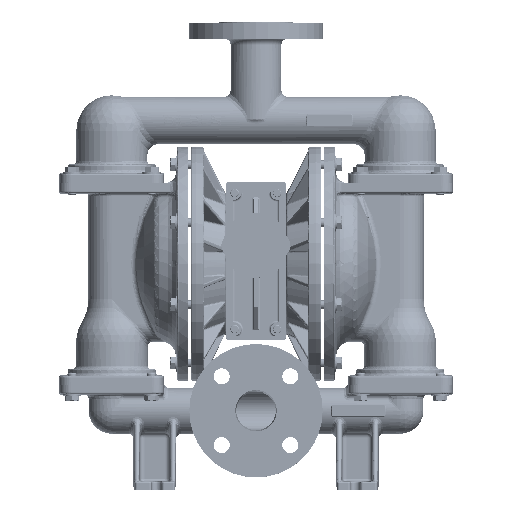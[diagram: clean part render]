
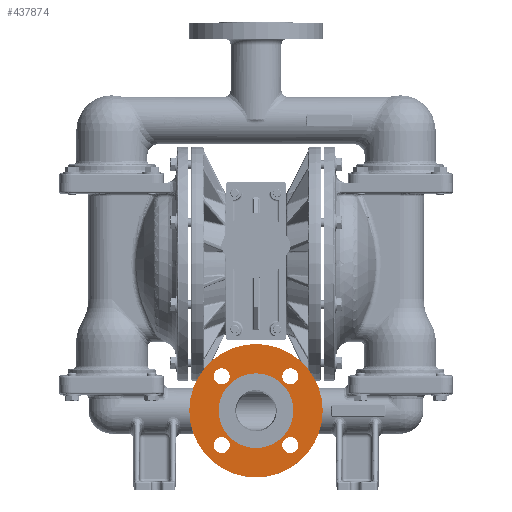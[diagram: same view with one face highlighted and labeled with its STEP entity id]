
A CAD part, top view. The second image highlights one B-rep face of the part: STEP entity #437874.
In plain terms, the highlighted planar face has unit normal (0, 0, 1).
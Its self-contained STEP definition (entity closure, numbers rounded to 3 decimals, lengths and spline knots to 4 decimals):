
#107696=CARTESIAN_POINT('',(0.,-6.51,3.19));
#107697=DIRECTION('',(0.,0.,-1.));
#107698=DIRECTION('',(0.,1.,0.));
#107699=AXIS2_PLACEMENT_3D('',#107696,#107697,#107698);
#107701=CARTESIAN_POINT('',(0.,-6.51,3.19));
#107702=DIRECTION('',(0.,0.,1.));
#107703=DIRECTION('',(0.,1.,0.));
#107704=AXIS2_PLACEMENT_3D('',#107701,#107702,#107703);
#107706=CARTESIAN_POINT('',(1.5203,-4.9897,3.19));
#107707=DIRECTION('',(0.,0.,-1.));
#107708=DIRECTION('',(-1.,0.,0.));
#107709=AXIS2_PLACEMENT_3D('',#107706,#107707,#107708);
#107711=CARTESIAN_POINT('',(1.5203,-4.9897,3.19));
#107712=DIRECTION('',(0.,0.,-1.));
#107713=DIRECTION('',(1.,0.,0.));
#107714=AXIS2_PLACEMENT_3D('',#107711,#107712,#107713);
#107716=CARTESIAN_POINT('',(1.5203,-8.0303,3.19));
#107717=DIRECTION('',(0.,0.,-1.));
#107718=DIRECTION('',(-1.,0.,0.));
#107719=AXIS2_PLACEMENT_3D('',#107716,#107717,#107718);
#107721=CARTESIAN_POINT('',(1.5203,-8.0303,3.19));
#107722=DIRECTION('',(0.,0.,-1.));
#107723=DIRECTION('',(1.,0.,0.));
#107724=AXIS2_PLACEMENT_3D('',#107721,#107722,#107723);
#107726=CARTESIAN_POINT('',(-1.5203,-8.0303,3.19));
#107727=DIRECTION('',(0.,0.,-1.));
#107728=DIRECTION('',(-1.,0.,0.));
#107729=AXIS2_PLACEMENT_3D('',#107726,#107727,#107728);
#107731=CARTESIAN_POINT('',(-1.5203,-8.0303,3.19));
#107732=DIRECTION('',(0.,0.,-1.));
#107733=DIRECTION('',(1.,0.,0.));
#107734=AXIS2_PLACEMENT_3D('',#107731,#107732,#107733);
#107736=CARTESIAN_POINT('',(-1.5203,-4.9897,3.19));
#107737=DIRECTION('',(0.,0.,-1.));
#107738=DIRECTION('',(-1.,0.,0.));
#107739=AXIS2_PLACEMENT_3D('',#107736,#107737,#107738);
#107741=CARTESIAN_POINT('',(-1.5203,-4.9897,3.19));
#107742=DIRECTION('',(0.,0.,-1.));
#107743=DIRECTION('',(1.,0.,0.));
#107744=AXIS2_PLACEMENT_3D('',#107741,#107742,#107743);
#107746=CARTESIAN_POINT('',(0.,-6.51,3.19));
#107747=DIRECTION('',(0.,0.,-1.));
#107748=DIRECTION('',(0.,1.,0.));
#107749=AXIS2_PLACEMENT_3D('',#107746,#107747,#107748);
#107756=CARTESIAN_POINT('',(0.,-6.51,3.19));
#107757=DIRECTION('',(0.,0.,-1.));
#107758=DIRECTION('',(0.,-1.,0.));
#107759=AXIS2_PLACEMENT_3D('',#107756,#107757,#107758);
#350167=CARTESIAN_POINT('',(0.,-4.855,3.19));
#350169=VERTEX_POINT('',#350167);
#350171=CARTESIAN_POINT('',(0.,-8.165,3.19));
#350173=VERTEX_POINT('',#350171);
#350174=CARTESIAN_POINT('',(0.,-3.555,3.19));
#350175=CARTESIAN_POINT('',(0.,-9.465,3.19));
#350176=VERTEX_POINT('',#350174);
#350177=VERTEX_POINT('',#350175);
#350186=CARTESIAN_POINT('',(1.1653,-4.9897,3.19));
#350187=CARTESIAN_POINT('',(1.8753,-4.9897,3.19));
#350188=VERTEX_POINT('',#350186);
#350189=VERTEX_POINT('',#350187);
#350194=CARTESIAN_POINT('',(1.1653,-8.0303,3.19));
#350195=CARTESIAN_POINT('',(1.8753,-8.0303,3.19));
#350196=VERTEX_POINT('',#350194);
#350197=VERTEX_POINT('',#350195);
#350202=CARTESIAN_POINT('',(-1.8753,-8.0303,3.19));
#350203=CARTESIAN_POINT('',(-1.1653,-8.0303,3.19));
#350204=VERTEX_POINT('',#350202);
#350205=VERTEX_POINT('',#350203);
#350210=CARTESIAN_POINT('',(-1.8753,-4.9897,3.19));
#350211=CARTESIAN_POINT('',(-1.1653,-4.9897,3.19));
#350212=VERTEX_POINT('',#350210);
#350213=VERTEX_POINT('',#350211);
#437835=CARTESIAN_POINT('',(0.,-6.51,3.19));
#437836=DIRECTION('',(0.,0.,-1.));
#437837=DIRECTION('',(0.,-1.,0.));
#437838=AXIS2_PLACEMENT_3D('',#437835,#437836,#437837);
#437839=PLANE('',#437838);
#437841=ORIENTED_EDGE('',*,*,#437840,.T.);
#437843=ORIENTED_EDGE('',*,*,#437842,.T.);
#437844=EDGE_LOOP('',(#437841,#437843));
#437845=FACE_OUTER_BOUND('',#437844,.F.);
#437846=ORIENTED_EDGE('',*,*,#437828,.F.);
#437847=ORIENTED_EDGE('',*,*,#437817,.T.);
#437848=EDGE_LOOP('',(#437846,#437847));
#437849=FACE_BOUND('',#437848,.F.);
#437851=ORIENTED_EDGE('',*,*,#437850,.F.);
#437853=ORIENTED_EDGE('',*,*,#437852,.F.);
#437854=EDGE_LOOP('',(#437851,#437853));
#437855=FACE_BOUND('',#437854,.F.);
#437857=ORIENTED_EDGE('',*,*,#437856,.F.);
#437859=ORIENTED_EDGE('',*,*,#437858,.F.);
#437860=EDGE_LOOP('',(#437857,#437859));
#437861=FACE_BOUND('',#437860,.F.);
#437863=ORIENTED_EDGE('',*,*,#437862,.F.);
#437865=ORIENTED_EDGE('',*,*,#437864,.F.);
#437866=EDGE_LOOP('',(#437863,#437865));
#437867=FACE_BOUND('',#437866,.F.);
#437869=ORIENTED_EDGE('',*,*,#437868,.F.);
#437871=ORIENTED_EDGE('',*,*,#437870,.F.);
#437872=EDGE_LOOP('',(#437869,#437871));
#437873=FACE_BOUND('',#437872,.F.);
#437874=ADVANCED_FACE('',(#437845,#437849,#437855,#437861,#437867,#437873),
#437839,.F.);
#107700=CIRCLE('',#107699,1.655);
#107705=CIRCLE('',#107704,1.655);
#107710=CIRCLE('',#107709,0.355);
#107715=CIRCLE('',#107714,0.355);
#107720=CIRCLE('',#107719,0.355);
#107725=CIRCLE('',#107724,0.355);
#107730=CIRCLE('',#107729,0.355);
#107735=CIRCLE('',#107734,0.355);
#107740=CIRCLE('',#107739,0.355);
#107745=CIRCLE('',#107744,0.355);
#107750=CIRCLE('',#107749,2.955);
#107760=CIRCLE('',#107759,2.955);
#437817=EDGE_CURVE('',#350169,#350173,#107705,.T.);
#437828=EDGE_CURVE('',#350169,#350173,#107700,.T.);
#437840=EDGE_CURVE('',#350176,#350177,#107750,.T.);
#437842=EDGE_CURVE('',#350177,#350176,#107760,.T.);
#437850=EDGE_CURVE('',#350188,#350189,#107710,.T.);
#437852=EDGE_CURVE('',#350189,#350188,#107715,.T.);
#437856=EDGE_CURVE('',#350196,#350197,#107720,.T.);
#437858=EDGE_CURVE('',#350197,#350196,#107725,.T.);
#437862=EDGE_CURVE('',#350204,#350205,#107730,.T.);
#437864=EDGE_CURVE('',#350205,#350204,#107735,.T.);
#437868=EDGE_CURVE('',#350212,#350213,#107740,.T.);
#437870=EDGE_CURVE('',#350213,#350212,#107745,.T.);
